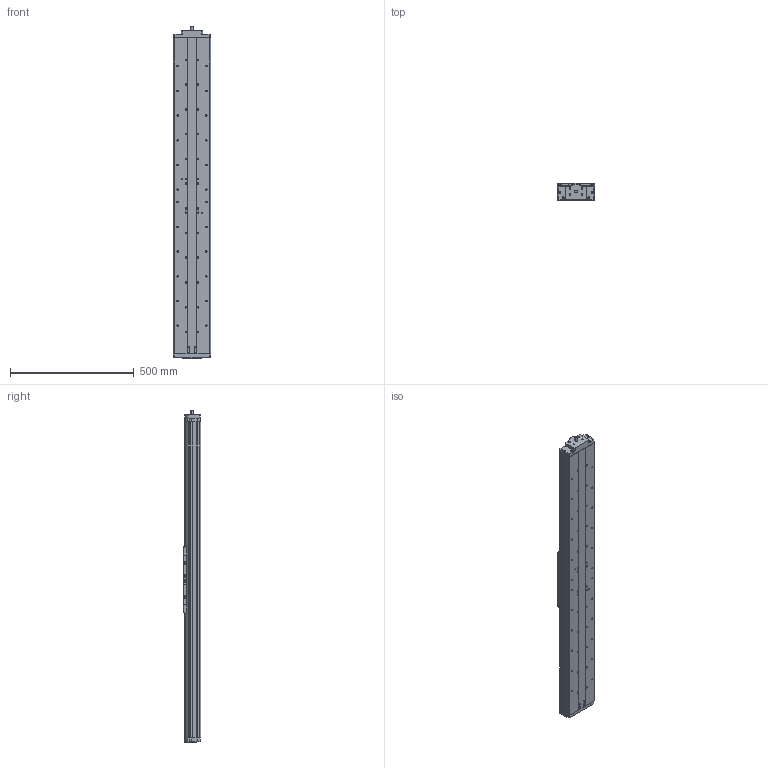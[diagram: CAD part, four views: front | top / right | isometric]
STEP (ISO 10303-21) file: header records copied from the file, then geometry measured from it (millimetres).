
FILE_DESCRIPTION((''),'2;1');
FILE_NAME('406XR-10_ASM','2002-07-12T',('FKrakosh'),(''),'PRO/ENGINEER BY PARAMETRIC TECHNOLOGY CORPORATION, 2000420','PRO/ENGINEER BY PARAMETRIC TECHNOLOGY CORPORATION, 2000420','');
FILE_SCHEMA(('CONFIG_CONTROL_DESIGN'));
Length unit declared in the file: millimetre
Products named in the file (8): 406XR-BASE-10; 406XR-REAR-END-BLK; 406XR-CARRIAGE; 10853610-01; 406XR-FEB-10MM; 10426110; 30321911; 406XR-10_ASM
Assembly tree (8 placements, depth 2):
  406XR-10_ASM
    406XR-BASE-10
    406XR-REAR-END-BLK
    406XR-CARRIAGE
    10853610-01  x2
    406XR-FEB-10MM
    10426110
    30321911
Bounding box: 150 x 69.9 x 1342.73 mm (x, y, z)
Volume: 11301043 mm3; surface area: 828150.5 mm2
Topology: 8 solids, 70 shells, 984 faces, 2428 edges, 1628 vertices
Faces by surface type: cylinder 518, plane 436, bspline 16, sphere 12, cone 2
Entity records: 27960 total; most frequent: CARTESIAN_POINT 5936, DIRECTION 4886, ORIENTED_EDGE 4102, EDGE_CURVE 2171, AXIS2_PLACEMENT_3D 1905, VERTEX_POINT 1471, EDGE_LOOP 1110, VECTOR 1076
